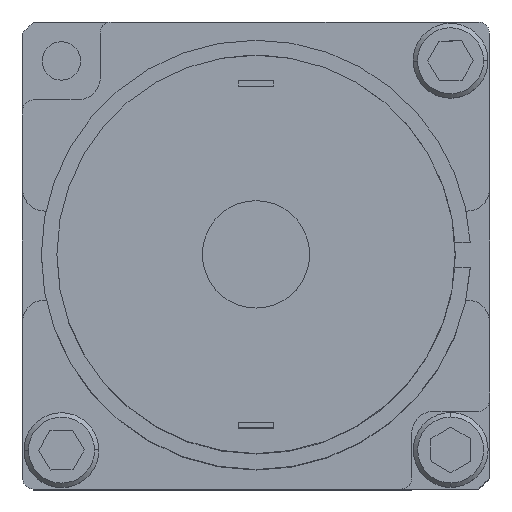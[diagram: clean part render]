
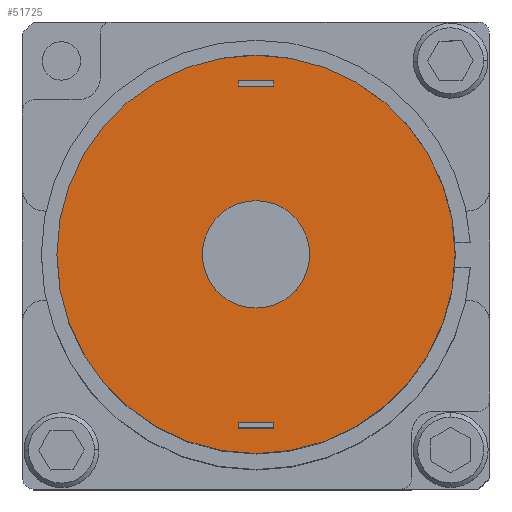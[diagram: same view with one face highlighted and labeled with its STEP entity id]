
A CAD part, top view. The second image highlights one B-rep face of the part: STEP entity #51725.
In plain terms, the highlighted planar face has unit normal (0, 0, 1) as drawn and (0, 0, -1) by its records, which use the part's own axes.
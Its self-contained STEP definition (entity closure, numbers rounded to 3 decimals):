
#1052 = VECTOR ( 'NONE', #4885, 1000. ) ;
#1344 = EDGE_CURVE ( 'NONE', #34663, #73944, #48056, .T. ) ;
#1718 = DIRECTION ( 'NONE',  ( -1., 0., 0. ) ) ;
#1785 = DIRECTION ( 'NONE',  ( -1., 0., 0. ) ) ;
#2343 = DIRECTION ( 'NONE',  ( -1., 0., 0. ) ) ;
#3118 = CARTESIAN_POINT ( 'NONE',  ( 15.621, 1.587, -7.112 ) ) ;
#3635 = LINE ( 'NONE', #39785, #41502 ) ;
#4885 = DIRECTION ( 'NONE',  ( 0., 1., 0. ) ) ;
#5421 = ORIENTED_EDGE ( 'NONE', *, *, #73688, .F. ) ;
#8636 = LINE ( 'NONE', #10514, #66714 ) ;
#10514 = CARTESIAN_POINT ( 'NONE',  ( 15.113, 1.587, -7.112 ) ) ;
#10625 = CARTESIAN_POINT ( 'NONE',  ( -15.113, 1.587, -7.112 ) ) ;
#10960 = AXIS2_PLACEMENT_3D ( 'NONE', #27713, #80734, #35307 ) ;
#11471 = CARTESIAN_POINT ( 'NONE',  ( -15.621, -1.587, -7.112 ) ) ;
#13246 = CARTESIAN_POINT ( 'NONE',  ( -17.907, 0., -7.112 ) ) ;
#13536 = DIRECTION ( 'NONE',  ( 0., 0., -1. ) ) ;
#13548 = FACE_BOUND ( 'NONE', #20540, .T. ) ;
#14318 = VERTEX_POINT ( 'NONE', #38829 ) ;
#14392 = EDGE_CURVE ( 'NONE', #29693, #93040, #96975, .T. ) ;
#15930 = FACE_BOUND ( 'NONE', #52000, .T. ) ;
#16632 = CARTESIAN_POINT ( 'NONE',  ( -15.113, -1.587, -7.112 ) ) ;
#18958 = DIRECTION ( 'NONE',  ( 1., 0., 0. ) ) ;
#20540 = EDGE_LOOP ( 'NONE', ( #58800, #82323, #40114, #87803 ) ) ;
#22198 = CARTESIAN_POINT ( 'NONE',  ( 0., 0., -7.112 ) ) ;
#23923 = AXIS2_PLACEMENT_3D ( 'NONE', #93105, #47629, #2343 ) ;
#24508 = CIRCLE ( 'NONE', #23923, 4.826 ) ;
#25015 = VECTOR ( 'NONE', #18958, 1000. ) ;
#25377 = CARTESIAN_POINT ( 'NONE',  ( -15.621, 1.587, -7.112 ) ) ;
#25442 = CARTESIAN_POINT ( 'NONE',  ( 15.113, 1.587, -7.112 ) ) ;
#26084 = DIRECTION ( 'NONE',  ( 0., -1., 0. ) ) ;
#27713 = CARTESIAN_POINT ( 'NONE',  ( 0., 0., -7.112 ) ) ;
#29693 = VERTEX_POINT ( 'NONE', #73436 ) ;
#30502 = LINE ( 'NONE', #91983, #48223 ) ;
#31605 = EDGE_CURVE ( 'NONE', #93040, #29693, #41284, .T. ) ;
#31613 = EDGE_CURVE ( 'NONE', #73944, #44493, #81623, .T. ) ;
#32724 = AXIS2_PLACEMENT_3D ( 'NONE', #22198, #47002, #1718 ) ;
#32783 = CARTESIAN_POINT ( 'NONE',  ( 15.621, 1.587, -7.112 ) ) ;
#33700 = VERTEX_POINT ( 'NONE', #84462 ) ;
#34663 = VERTEX_POINT ( 'NONE', #16632 ) ;
#34776 = ORIENTED_EDGE ( 'NONE', *, *, #72992, .F. ) ;
#35307 = DIRECTION ( 'NONE',  ( -1., 0., 0. ) ) ;
#36052 = VECTOR ( 'NONE', #85250, 1000. ) ;
#38443 = LINE ( 'NONE', #77601, #36052 ) ;
#38829 = CARTESIAN_POINT ( 'NONE',  ( 4.826, 0., -7.112 ) ) ;
#39785 = CARTESIAN_POINT ( 'NONE',  ( -15.113, 1.587, -7.112 ) ) ;
#40114 = ORIENTED_EDGE ( 'NONE', *, *, #1344, .F. ) ;
#41284 = CIRCLE ( 'NONE', #10960, 17.907 ) ;
#41502 = VECTOR ( 'NONE', #78208, 1000. ) ;
#44350 = VERTEX_POINT ( 'NONE', #32783 ) ;
#44493 = VERTEX_POINT ( 'NONE', #25377 ) ;
#45064 = EDGE_CURVE ( 'NONE', #84913, #44350, #83135, .T. ) ;
#46222 = EDGE_CURVE ( 'NONE', #14318, #33700, #65224, .T. ) ;
#46532 = DIRECTION ( 'NONE',  ( -1., 0., 0. ) ) ;
#46652 = VERTEX_POINT ( 'NONE', #79061 ) ;
#47002 = DIRECTION ( 'NONE',  ( 0., 0., -1. ) ) ;
#47067 = DIRECTION ( 'NONE',  ( 0., 0., -1. ) ) ;
#47629 = DIRECTION ( 'NONE',  ( 0., 0., -1. ) ) ;
#48056 = LINE ( 'NONE', #11471, #75402 ) ;
#48223 = VECTOR ( 'NONE', #46532, 1000. ) ;
#51447 = FACE_OUTER_BOUND ( 'NONE', #70949, .T. ) ;
#51586 = EDGE_CURVE ( 'NONE', #77308, #34663, #38443, .T. ) ;
#51725 = ADVANCED_FACE ( 'NONE', ( #13548, #51447, #71643, #15930 ), #90447, .T. ) ;
#52000 = EDGE_LOOP ( 'NONE', ( #53879, #5421 ) ) ;
#53866 = VECTOR ( 'NONE', #26084, 1000. ) ;
#53879 = ORIENTED_EDGE ( 'NONE', *, *, #46222, .F. ) ;
#54029 = AXIS2_PLACEMENT_3D ( 'NONE', #58895, #13536, #66536 ) ;
#55883 = DIRECTION ( 'NONE',  ( 0., 1., 0. ) ) ;
#56090 = DIRECTION ( 'NONE',  ( -1., 0., 0. ) ) ;
#56223 = CARTESIAN_POINT ( 'NONE',  ( 15.621, -1.587, -7.112 ) ) ;
#57844 = CARTESIAN_POINT ( 'NONE',  ( -15.621, 1.587, -7.112 ) ) ;
#58800 = ORIENTED_EDGE ( 'NONE', *, *, #69514, .F. ) ;
#58895 = CARTESIAN_POINT ( 'NONE',  ( 0., 0., -7.112 ) ) ;
#61231 = AXIS2_PLACEMENT_3D ( 'NONE', #92537, #47067, #1785 ) ;
#63573 = CARTESIAN_POINT ( 'NONE',  ( 15.621, -1.587, -7.112 ) ) ;
#65224 = CIRCLE ( 'NONE', #54029, 4.826 ) ;
#66536 = DIRECTION ( 'NONE',  ( -1., 0., 0. ) ) ;
#66714 = VECTOR ( 'NONE', #55883, 1000. ) ;
#69514 = EDGE_CURVE ( 'NONE', #44493, #77308, #3635, .T. ) ;
#70243 = ORIENTED_EDGE ( 'NONE', *, *, #45064, .F. ) ;
#70949 = EDGE_LOOP ( 'NONE', ( #94679, #74539 ) ) ;
#71643 = FACE_BOUND ( 'NONE', #85724, .T. ) ;
#72992 = EDGE_CURVE ( 'NONE', #89953, #46652, #30502, .T. ) ;
#73436 = CARTESIAN_POINT ( 'NONE',  ( 17.907, 0., -7.112 ) ) ;
#73688 = EDGE_CURVE ( 'NONE', #33700, #14318, #24508, .T. ) ;
#73944 = VERTEX_POINT ( 'NONE', #96028 ) ;
#74020 = LINE ( 'NONE', #56223, #53866 ) ;
#74539 = ORIENTED_EDGE ( 'NONE', *, *, #31605, .T. ) ;
#75402 = VECTOR ( 'NONE', #56090, 1000. ) ;
#76637 = ORIENTED_EDGE ( 'NONE', *, *, #93192, .F. ) ;
#77308 = VERTEX_POINT ( 'NONE', #10625 ) ;
#77601 = CARTESIAN_POINT ( 'NONE',  ( -15.113, -1.587, -7.112 ) ) ;
#78208 = DIRECTION ( 'NONE',  ( 1., 0., 0. ) ) ;
#79061 = CARTESIAN_POINT ( 'NONE',  ( 15.113, -1.587, -7.112 ) ) ;
#80734 = DIRECTION ( 'NONE',  ( 0., 0., -1. ) ) ;
#81623 = LINE ( 'NONE', #57844, #1052 ) ;
#82323 = ORIENTED_EDGE ( 'NONE', *, *, #31613, .F. ) ;
#83135 = LINE ( 'NONE', #3118, #25015 ) ;
#84462 = CARTESIAN_POINT ( 'NONE',  ( -4.826, 0., -7.112 ) ) ;
#84913 = VERTEX_POINT ( 'NONE', #25442 ) ;
#85250 = DIRECTION ( 'NONE',  ( 0., -1., 0. ) ) ;
#85724 = EDGE_LOOP ( 'NONE', ( #76637, #70243, #91713, #34776 ) ) ;
#87803 = ORIENTED_EDGE ( 'NONE', *, *, #51586, .F. ) ;
#89953 = VERTEX_POINT ( 'NONE', #63573 ) ;
#90447 = PLANE ( 'NONE',  #32724 ) ;
#91713 = ORIENTED_EDGE ( 'NONE', *, *, #95497, .F. ) ;
#91983 = CARTESIAN_POINT ( 'NONE',  ( 15.113, -1.587, -7.112 ) ) ;
#92537 = CARTESIAN_POINT ( 'NONE',  ( 0., 0., -7.112 ) ) ;
#93040 = VERTEX_POINT ( 'NONE', #13246 ) ;
#93105 = CARTESIAN_POINT ( 'NONE',  ( 0., 0., -7.112 ) ) ;
#93192 = EDGE_CURVE ( 'NONE', #44350, #89953, #74020, .T. ) ;
#94679 = ORIENTED_EDGE ( 'NONE', *, *, #14392, .T. ) ;
#95497 = EDGE_CURVE ( 'NONE', #46652, #84913, #8636, .T. ) ;
#96028 = CARTESIAN_POINT ( 'NONE',  ( -15.621, -1.587, -7.112 ) ) ;
#96975 = CIRCLE ( 'NONE', #61231, 17.907 ) ;
